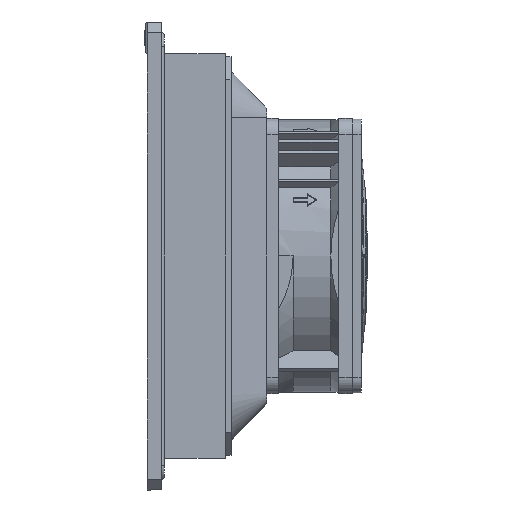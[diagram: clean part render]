
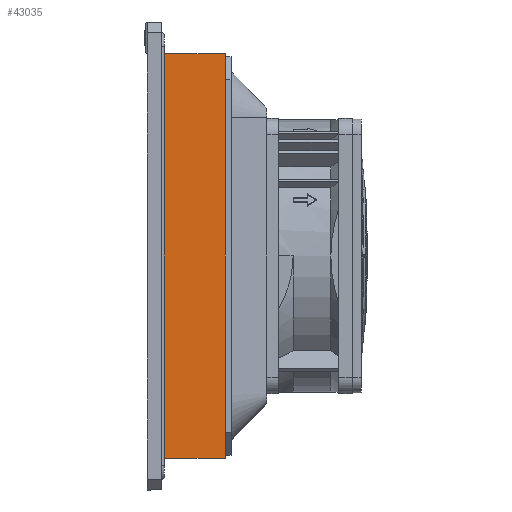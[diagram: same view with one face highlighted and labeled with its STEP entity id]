
A CAD part, left-side view. The second image highlights one B-rep face of the part: STEP entity #43035.
In plain terms, the highlighted planar face has unit normal (-1, 0, 0).
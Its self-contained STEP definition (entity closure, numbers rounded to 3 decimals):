
#16606 = VERTEX_POINT ( 'NONE', #78757 ) ;
#17703 = VERTEX_POINT ( 'NONE', #79201 ) ;
#17733 = EDGE_CURVE ( 'NONE', #16606, #17703, #79181, .T. ) ;
#42335 = EDGE_LOOP ( 'NONE', ( #42340, #43592, #43209, #42705 ) ) ;
#42340 = ORIENTED_EDGE ( 'NONE', *, *, #43615, .T. ) ;
#42705 = ORIENTED_EDGE ( 'NONE', *, *, #17733, .T. ) ;
#42729 = EDGE_CURVE ( 'NONE', #16606, #43208, #77273, .T. ) ;
#43035 = ADVANCED_FACE ( 'NONE', ( #78254 ), #78253, .T. ) ;
#43202 = EDGE_CURVE ( 'NONE', #43208, #43591, #79046, .T. ) ;
#43208 = VERTEX_POINT ( 'NONE', #79146 ) ;
#43209 = ORIENTED_EDGE ( 'NONE', *, *, #42729, .F. ) ;
#43591 = VERTEX_POINT ( 'NONE', #81296 ) ;
#43592 = ORIENTED_EDGE ( 'NONE', *, *, #43202, .F. ) ;
#43615 = EDGE_CURVE ( 'NONE', #17703, #43591, #81269, .T. ) ;
#77269 = DIRECTION ( 'NONE',  ( 0., -1., 0. ) ) ;
#77270 = VECTOR ( 'NONE', #77269, 1000. ) ;
#77271 = CARTESIAN_POINT ( 'NONE',  ( -87.5, 309.1, 87.5 ) ) ;
#77273 = LINE ( 'NONE', #77271, #77270 ) ;
#78244 = DIRECTION ( 'NONE',  ( 0., 0., 1. ) ) ;
#78245 = DIRECTION ( 'NONE',  ( -1., 0., 0. ) ) ;
#78246 = CARTESIAN_POINT ( 'NONE',  ( -87.5, 309.1, 87.5 ) ) ;
#78247 = AXIS2_PLACEMENT_3D ( 'NONE', #78246, #78245, #78244 ) ;
#78253 = PLANE ( 'NONE',  #78247 ) ;
#78254 = FACE_OUTER_BOUND ( 'NONE', #42335, .T. ) ;
#78757 = CARTESIAN_POINT ( 'NONE',  ( -87.5, 28., 87.5 ) ) ;
#79041 = DIRECTION ( 'NONE',  ( 0., 0., -1. ) ) ;
#79042 = VECTOR ( 'NONE', #79041, 1000. ) ;
#79044 = CARTESIAN_POINT ( 'NONE',  ( -87.5, 0., 87.5 ) ) ;
#79046 = LINE ( 'NONE', #79044, #79042 ) ;
#79146 = CARTESIAN_POINT ( 'NONE',  ( -87.5, 0., 87.5 ) ) ;
#79176 = DIRECTION ( 'NONE',  ( 0., 0., -1. ) ) ;
#79178 = VECTOR ( 'NONE', #79176, 1000. ) ;
#79179 = CARTESIAN_POINT ( 'NONE',  ( -87.5, 28., 87.5 ) ) ;
#79181 = LINE ( 'NONE', #79179, #79178 ) ;
#79201 = CARTESIAN_POINT ( 'NONE',  ( -87.5, 28., -87.5 ) ) ;
#81269 = LINE ( 'NONE', #81339, #81337 ) ;
#81296 = CARTESIAN_POINT ( 'NONE',  ( -87.5, 0., -87.5 ) ) ;
#81335 = DIRECTION ( 'NONE',  ( 0., -1., 0. ) ) ;
#81337 = VECTOR ( 'NONE', #81335, 1000. ) ;
#81339 = CARTESIAN_POINT ( 'NONE',  ( -87.5, 309.1, -87.5 ) ) ;
